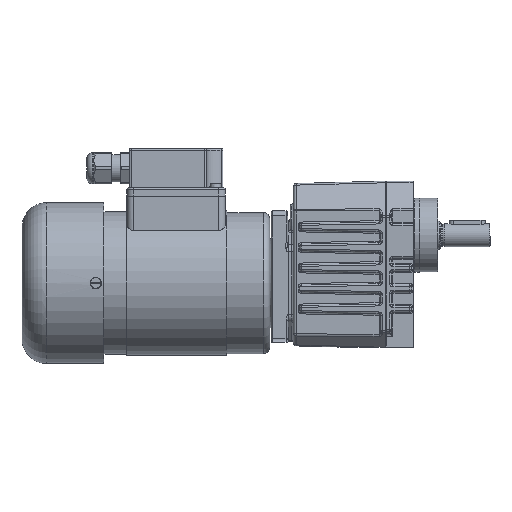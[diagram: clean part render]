
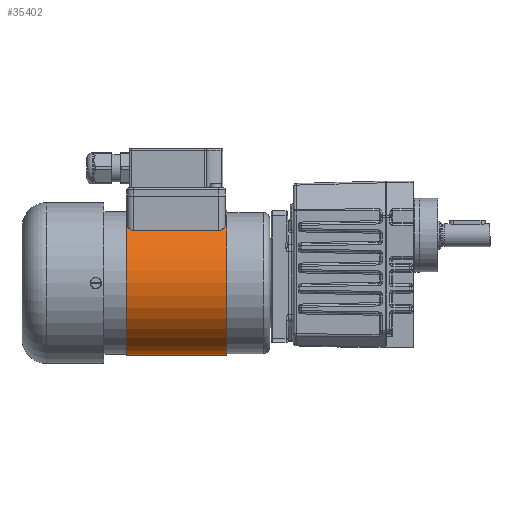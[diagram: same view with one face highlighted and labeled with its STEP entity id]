
A CAD part, left-side view. The second image highlights one B-rep face of the part: STEP entity #35402.
In plain terms, the highlighted cylindrical face has radius 44 mm (diameter 88 mm), a full revolution.
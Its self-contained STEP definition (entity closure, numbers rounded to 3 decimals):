
#4581=FACE_OUTER_BOUND('',#6954,.T.);
#6954=EDGE_LOOP('',(#31407,#31408,#31409,#31410));
#9378=LINE('',#84127,#11732);
#11732=VECTOR('',#49830,44.);
#13884=CIRCLE('',#39841,44.);
#13885=CIRCLE('',#39843,44.);
#17193=VERTEX_POINT('',#84122);
#17194=VERTEX_POINT('',#84125);
#21994=EDGE_CURVE('',#17193,#17193,#13884,.T.);
#21995=EDGE_CURVE('',#17194,#17194,#13885,.T.);
#21996=EDGE_CURVE('',#17194,#17193,#9378,.T.);
#31407=ORIENTED_EDGE('',*,*,#21995,.F.);
#31408=ORIENTED_EDGE('',*,*,#21996,.T.);
#31409=ORIENTED_EDGE('',*,*,#21994,.T.);
#31410=ORIENTED_EDGE('',*,*,#21996,.F.);
#33402=CYLINDRICAL_SURFACE('',#39842,44.);
#35402=ADVANCED_FACE('',(#4581),#33402,.T.);
#39841=AXIS2_PLACEMENT_3D('',#84123,#49824,#49825);
#39842=AXIS2_PLACEMENT_3D('',#84124,#49826,#49827);
#39843=AXIS2_PLACEMENT_3D('',#84126,#49828,#49829);
#49824=DIRECTION('center_axis',(-1.,0.,0.));
#49825=DIRECTION('ref_axis',(0.,0.,1.));
#49826=DIRECTION('center_axis',(-1.,0.,0.));
#49827=DIRECTION('ref_axis',(0.,0.,1.));
#49828=DIRECTION('center_axis',(-1.,0.,0.));
#49829=DIRECTION('ref_axis',(0.,0.,1.));
#49830=DIRECTION('',(1.,0.,0.));
#84122=CARTESIAN_POINT('',(102.,0.,-44.));
#84123=CARTESIAN_POINT('Origin',(102.,0.,0.));
#84124=CARTESIAN_POINT('Origin',(71.5,0.,0.));
#84125=CARTESIAN_POINT('',(41.,0.,-44.));
#84126=CARTESIAN_POINT('Origin',(41.,0.,0.));
#84127=CARTESIAN_POINT('',(71.5,0.,-44.));
